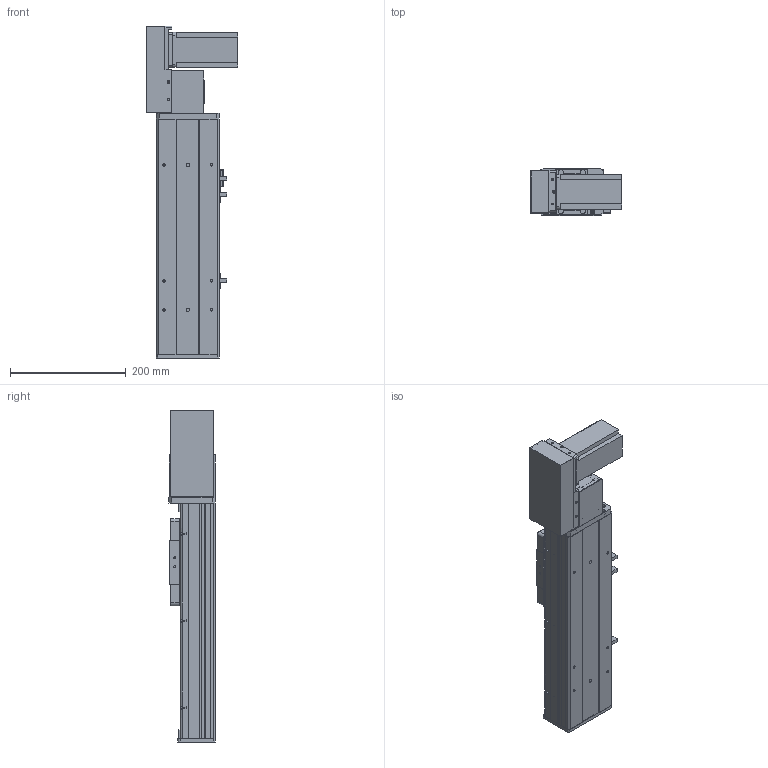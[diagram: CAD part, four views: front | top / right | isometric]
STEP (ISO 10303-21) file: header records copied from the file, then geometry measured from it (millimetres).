
FILE_DESCRIPTION (( 'STEP AP203' ), '1' );
FILE_NAME ('Y10CB-D90-S150-BL-P400W.STEP', '2020-02-15T07:23:26', ( '微软用户' ), ( '微软中国' ), 'SwSTEP 2.0', 'SolidWorks 2017', '' );
FILE_SCHEMA (( 'CONFIG_CONTROL_DESIGN' ));
Length unit declared in the file: millimetre
Products named in the file (18): Y10CB- 掛极耜裔啣-毀---; Y10B--々湍喘謫眊--666; Y10C---詩湍揤啣; Y10B-耜蚾蟀諉啣----; 10CB9-掛极; 0B-萇儂楊擘啣; 10CB-耜裔; san松下电机400不带刹车----; Y135C-陔俋离換覜結え-; 0B-源倛裔啣; Y100-135俋离換覜ん--; 0B-埴倛裔啣; 0CB-雄赽釱---; Y10CB-D90-S150-BL-P400W; Y俋欶BR----; 0Cb-俋欶---; 10CB-詩湍-; Y10B-々湍喘謫眊楊擘啣--
Assembly tree (21 placements, depth 2):
  Y10CB-D90-S150-BL-P400W
    0CB-雄赽釱---
    0Cb-俋欶---
    Y10B-々湍喘謫眊楊擘啣--
    Y10B--々湍喘謫眊--666
    Y10B-耜蚾蟀諉啣----
    0B-萇儂楊擘啣
    san松下电机400不带刹车----
    0B-源倛裔啣
    0B-埴倛裔啣
    Y俋欶BR----
    10CB-詩湍-
    Y10CB- 掛极耜裔啣-毀---  x2
    Y10C---詩湍揤啣  x2
    10CB9-掛极
    10CB-耜裔
    Y135C-陔俋离換覜結え-
    Y100-135俋离換覜ん--  x3
Bounding box: 157.5 x 80.5 x 572.5 mm (x, y, z)
Volume: 1653072.5 mm3; surface area: 664758.1 mm2
Topology: 21 solids, 21 shells, 1004 faces, 2651 edges, 1746 vertices
Faces by surface type: cylinder 497, plane 483, cone 24
Entity records: 30250 total; most frequent: CARTESIAN_POINT 5213, DIRECTION 4942, ORIENTED_EDGE 4640, EDGE_CURVE 2320, AXIS2_PLACEMENT_3D 1779, VERTEX_POINT 1528, LINE 1384, VECTOR 1384
